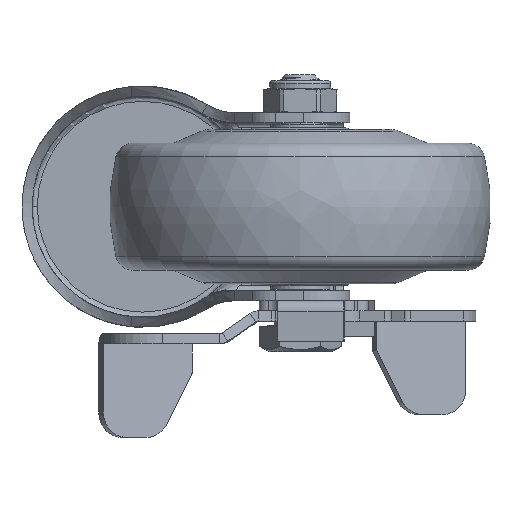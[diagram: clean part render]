
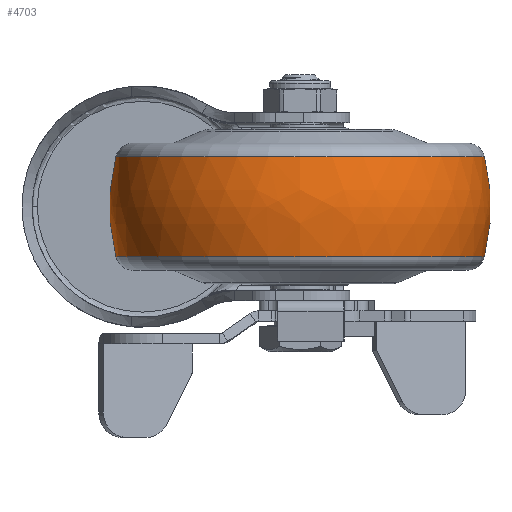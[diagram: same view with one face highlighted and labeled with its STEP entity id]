
A CAD part, front view. The second image highlights one B-rep face of the part: STEP entity #4703.
In plain terms, the highlighted free-form (B-spline) face has degree [3, 3] with [7, 4] control points.
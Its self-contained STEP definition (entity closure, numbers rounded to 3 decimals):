
#4241=CARTESIAN_POINT('',(0.,-2.5,0.));
#4242=DIRECTION('',(0.,0.,1.));
#4243=DIRECTION('',(0.247,0.969,0.));
#4244=AXIS2_PLACEMENT_3D('',#4241,#4242,#4243);
#4246=CARTESIAN_POINT('',(0.,2.5,0.));
#4247=DIRECTION('',(0.,0.,-1.));
#4248=DIRECTION('',(0.247,-0.969,0.));
#4249=AXIS2_PLACEMENT_3D('',#4246,#4247,#4248);
#4251=CARTESIAN_POINT('',(9.863,0.,0.));
#4252=DIRECTION('',(-1.,0.,0.));
#4253=DIRECTION('',(0.,1.,0.));
#4254=AXIS2_PLACEMENT_3D('',#4251,#4252,#4253);
#4266=CARTESIAN_POINT('',(-9.863,0.,0.));
#4267=DIRECTION('',(-1.,0.,0.));
#4268=DIRECTION('',(0.,1.,0.));
#4269=AXIS2_PLACEMENT_3D('',#4266,#4267,#4268);
#4546=CARTESIAN_POINT('',(9.863,36.265,0.));
#4547=CARTESIAN_POINT('',(-9.863,36.265,0.));
#4548=VERTEX_POINT('',#4546);
#4549=VERTEX_POINT('',#4547);
#4586=CARTESIAN_POINT('',(9.863,-36.265,0.));
#4587=CARTESIAN_POINT('',(-9.863,-36.265,0.));
#4588=VERTEX_POINT('',#4586);
#4589=VERTEX_POINT('',#4587);
#4666=CARTESIAN_POINT('',(-10.249,-36.093,
2.271));
#4667=CARTESIAN_POINT('',(-3.494,-37.88,
2.383));
#4668=CARTESIAN_POINT('',(3.494,-37.88,2.383));
#4669=CARTESIAN_POINT('',(10.249,-36.093,2.271));
#4670=CARTESIAN_POINT('',(-10.249,-37.491,
-19.941));
#4671=CARTESIAN_POINT('',(-3.494,-39.347,
-20.928));
#4672=CARTESIAN_POINT('',(3.494,-39.347,
-20.928));
#4673=CARTESIAN_POINT('',(10.249,-37.491,
-19.941));
#4674=CARTESIAN_POINT('',(-10.249,-22.256,
-36.165));
#4675=CARTESIAN_POINT('',(-3.494,-23.358,
-37.955));
#4676=CARTESIAN_POINT('',(3.494,-23.358,
-37.955));
#4677=CARTESIAN_POINT('',(10.249,-22.256,
-36.165));
#4678=CARTESIAN_POINT('',(-10.249,0.,-36.165));
#4679=CARTESIAN_POINT('',(-3.494,0.,-37.955));
#4680=CARTESIAN_POINT('',(3.494,0.,-37.955));
#4681=CARTESIAN_POINT('',(10.249,0.,-36.165));
#4682=CARTESIAN_POINT('',(-10.249,22.256,
-36.165));
#4683=CARTESIAN_POINT('',(-3.494,23.358,
-37.955));
#4684=CARTESIAN_POINT('',(3.494,23.358,-37.955));
#4685=CARTESIAN_POINT('',(10.249,22.256,-36.165));
#4686=CARTESIAN_POINT('',(-10.249,37.491,
-19.941));
#4687=CARTESIAN_POINT('',(-3.494,39.347,
-20.928));
#4688=CARTESIAN_POINT('',(3.494,39.347,-20.928));
#4689=CARTESIAN_POINT('',(10.249,37.491,-19.941));
#4690=CARTESIAN_POINT('',(-10.249,36.093,2.271));
#4691=CARTESIAN_POINT('',(-3.494,37.88,2.383));
#4692=CARTESIAN_POINT('',(3.494,37.88,2.383));
#4693=CARTESIAN_POINT('',(10.249,36.093,2.271));
#4694=(BOUNDED_SURFACE()B_SPLINE_SURFACE(3,3,((#4666,#4667,#4668,#4669),(#4670,
#4671,#4672,#4673),(#4674,#4675,#4676,#4677),(#4678,#4679,#4680,#4681),(#4682,
#4683,#4684,#4685),(#4686,#4687,#4688,#4689),(#4690,#4691,#4692,#4693)),
.UNSPECIFIED.,.F.,.F.,.F.)B_SPLINE_SURFACE_WITH_KNOTS((4,3,4),(4,4),(0.,1.,
2.),(0.,1.),.UNSPECIFIED.)GEOMETRIC_REPRESENTATION_ITEM()RATIONAL_B_SPLINE_SURFACE(((1.207,1.181,1.181,1.207),(
0.953,0.932,0.932,0.953),(
0.953,0.932,0.932,0.953),(
1.207,1.181,1.181,1.207),(
0.953,0.932,0.932,0.953),(
0.953,0.932,0.932,0.953),(
1.207,1.181,1.181,1.207)))REPRESENTATION_ITEM('')SURFACE());
#4695=ORIENTED_EDGE('',*,*,#4655,.T.);
#4697=ORIENTED_EDGE('',*,*,#4696,.T.);
#4698=ORIENTED_EDGE('',*,*,#4659,.F.);
#4700=ORIENTED_EDGE('',*,*,#4699,.F.);
#4701=EDGE_LOOP('',(#4695,#4697,#4698,#4700));
#4702=FACE_OUTER_BOUND('',#4701,.F.);
#4245=CIRCLE('',#4244,40.);
#4250=CIRCLE('',#4249,40.);
#4255=CIRCLE('',#4254,36.265);
#4270=CIRCLE('',#4269,36.265);
#4655=EDGE_CURVE('',#4548,#4549,#4245,.T.);
#4659=EDGE_CURVE('',#4588,#4589,#4250,.T.);
#4696=EDGE_CURVE('',#4549,#4589,#4270,.T.);
#4699=EDGE_CURVE('',#4548,#4588,#4255,.T.);
#4703=ADVANCED_FACE('',(#4702),#4694,.T.);
